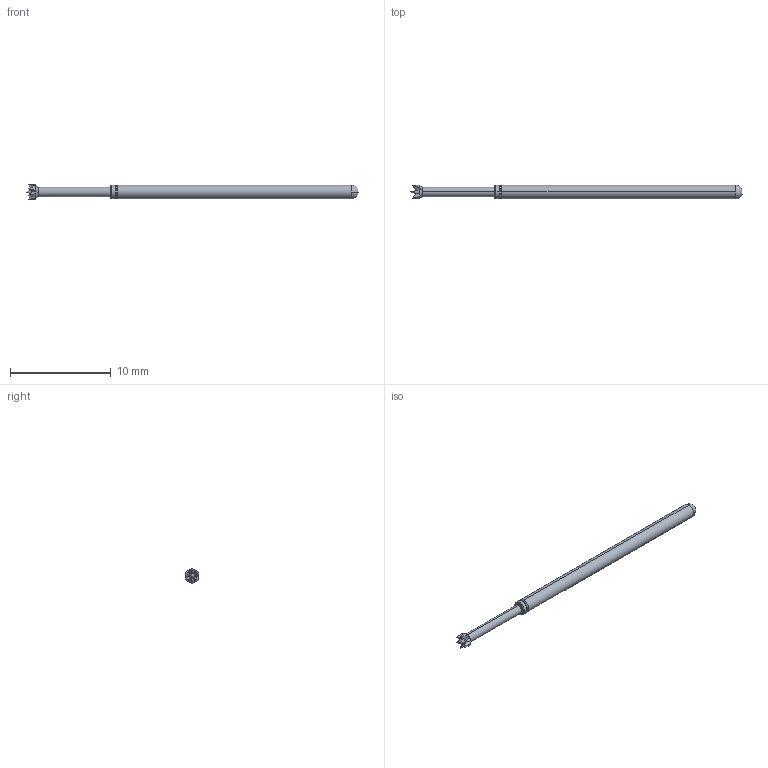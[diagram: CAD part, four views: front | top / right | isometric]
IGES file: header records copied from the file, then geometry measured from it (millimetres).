
Start section: SolidWorks IGES file using analytic representation for surfaces
Global section: file name: Z:\probe solid model mockups\Solidworks models\POGO-25 IGS files\POGO-25V.IGS; native system: SolidWorks 2006 by SolidWorks Corporation; preprocessor: SolidWorks 2006 by SolidWorks Corporation; author: tsakatani; date: 071214.093651; units: inch
Bounding box: 33.02 x 1.37 x 1.4 mm (x, y, z)
Surface area: 133.8 mm2 (no closed solid volume)
Topology: 0 solids, 0 shells, 43 faces, 274 edges, 272 vertices
Faces by surface type: revolution 25, bspline 18
